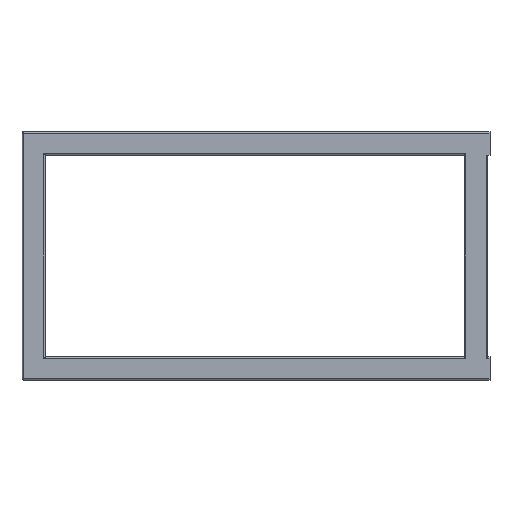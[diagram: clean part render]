
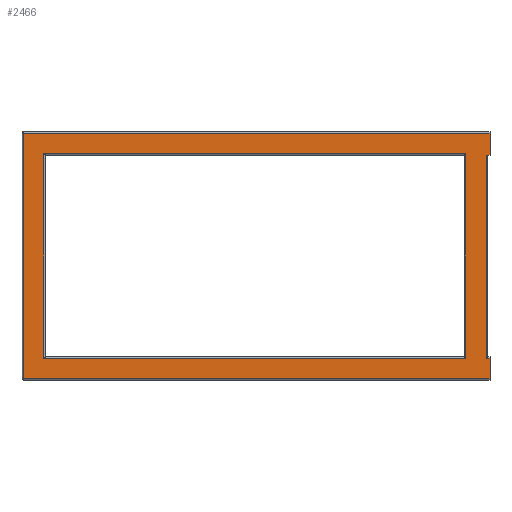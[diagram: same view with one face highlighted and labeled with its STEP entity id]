
A CAD part, left-side view. The second image highlights one B-rep face of the part: STEP entity #2466.
In plain terms, the highlighted planar face has unit normal (-1, 0, 0).
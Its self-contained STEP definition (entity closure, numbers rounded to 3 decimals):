
#87=FACE_BOUND('',#342,.T.);
#96=PLANE('',#2675);
#190=FACE_OUTER_BOUND('',#341,.T.);
#341=EDGE_LOOP('',(#1822,#1823,#1824,#1825,#1826,#1827,#1828,#1829));
#342=EDGE_LOOP('',(#1830,#1831,#1832,#1833));
#554=LINE('',#3716,#829);
#582=LINE('',#3790,#857);
#591=LINE('',#3826,#866);
#592=LINE('',#3829,#867);
#593=LINE('',#3830,#868);
#594=LINE('',#3832,#869);
#595=LINE('',#3834,#870);
#596=LINE('',#3835,#871);
#597=LINE('',#3838,#872);
#598=LINE('',#3840,#873);
#599=LINE('',#3842,#874);
#600=LINE('',#3843,#875);
#829=VECTOR('',#2946,10.);
#857=VECTOR('',#2998,10.);
#866=VECTOR('',#3039,10.);
#867=VECTOR('',#3042,10.);
#868=VECTOR('',#3043,10.);
#869=VECTOR('',#3044,10.);
#870=VECTOR('',#3045,10.);
#871=VECTOR('',#3046,10.);
#872=VECTOR('',#3047,10.);
#873=VECTOR('',#3048,10.);
#874=VECTOR('',#3049,10.);
#875=VECTOR('',#3050,10.);
#1162=VERTEX_POINT('',#3713);
#1163=VERTEX_POINT('',#3715);
#1196=VERTEX_POINT('',#3787);
#1197=VERTEX_POINT('',#3789);
#1208=VERTEX_POINT('',#3824);
#1209=VERTEX_POINT('',#3828);
#1210=VERTEX_POINT('',#3831);
#1211=VERTEX_POINT('',#3833);
#1212=VERTEX_POINT('',#3836);
#1213=VERTEX_POINT('',#3837);
#1214=VERTEX_POINT('',#3839);
#1215=VERTEX_POINT('',#3841);
#1386=EDGE_CURVE('',#1162,#1163,#554,.T.);
#1423=EDGE_CURVE('',#1196,#1197,#582,.T.);
#1442=EDGE_CURVE('',#1208,#1196,#591,.T.);
#1443=EDGE_CURVE('',#1209,#1208,#592,.T.);
#1444=EDGE_CURVE('',#1209,#1163,#593,.T.);
#1445=EDGE_CURVE('',#1210,#1162,#594,.T.);
#1446=EDGE_CURVE('',#1211,#1210,#595,.T.);
#1447=EDGE_CURVE('',#1197,#1211,#596,.T.);
#1448=EDGE_CURVE('',#1212,#1213,#597,.T.);
#1449=EDGE_CURVE('',#1214,#1212,#598,.T.);
#1450=EDGE_CURVE('',#1215,#1214,#599,.T.);
#1451=EDGE_CURVE('',#1213,#1215,#600,.T.);
#1822=ORIENTED_EDGE('',*,*,#1442,.F.);
#1823=ORIENTED_EDGE('',*,*,#1443,.F.);
#1824=ORIENTED_EDGE('',*,*,#1444,.T.);
#1825=ORIENTED_EDGE('',*,*,#1386,.F.);
#1826=ORIENTED_EDGE('',*,*,#1445,.F.);
#1827=ORIENTED_EDGE('',*,*,#1446,.F.);
#1828=ORIENTED_EDGE('',*,*,#1447,.F.);
#1829=ORIENTED_EDGE('',*,*,#1423,.F.);
#1830=ORIENTED_EDGE('',*,*,#1448,.F.);
#1831=ORIENTED_EDGE('',*,*,#1449,.F.);
#1832=ORIENTED_EDGE('',*,*,#1450,.F.);
#1833=ORIENTED_EDGE('',*,*,#1451,.F.);
#2466=ADVANCED_FACE('',(#190,#87),#96,.T.);
#2675=AXIS2_PLACEMENT_3D('',#3827,#3040,#3041);
#2946=DIRECTION('',(0.,0.,-1.));
#2998=DIRECTION('',(0.,0.,-1.));
#3039=DIRECTION('',(0.,-1.,0.));
#3040=DIRECTION('center_axis',(-1.,0.,0.));
#3041=DIRECTION('ref_axis',(0.,0.,1.));
#3042=DIRECTION('',(0.,0.,-1.));
#3043=DIRECTION('',(0.,-1.,0.));
#3044=DIRECTION('',(0.,-1.,0.));
#3045=DIRECTION('',(0.,0.,1.));
#3046=DIRECTION('',(0.,1.,0.));
#3047=DIRECTION('',(0.,0.,1.));
#3048=DIRECTION('',(0.,-1.,0.));
#3049=DIRECTION('',(0.,0.,-1.));
#3050=DIRECTION('',(0.,1.,0.));
#3713=CARTESIAN_POINT('',(-175.,-3.,158.));
#3715=CARTESIAN_POINT('',(-175.,-3.,130.));
#3716=CARTESIAN_POINT('',(-175.,-3.,160.));
#3787=CARTESIAN_POINT('',(-175.,-3.,-132.));
#3789=CARTESIAN_POINT('',(-175.,-3.,-158.));
#3790=CARTESIAN_POINT('',(-175.,-3.,-160.));
#3824=CARTESIAN_POINT('',(-175.,2.,-132.));
#3826=CARTESIAN_POINT('',(-175.,0.,-132.));
#3827=CARTESIAN_POINT('Origin',(-175.,0.,-160.));
#3828=CARTESIAN_POINT('',(-175.,2.,130.));
#3829=CARTESIAN_POINT('',(-175.,2.,-105.306));
#3830=CARTESIAN_POINT('',(-175.,0.,130.));
#3831=CARTESIAN_POINT('',(-175.,598.,158.));
#3832=CARTESIAN_POINT('',(-175.,0.,158.));
#3833=CARTESIAN_POINT('',(-175.,598.,-158.));
#3834=CARTESIAN_POINT('',(-175.,598.,-105.306));
#3835=CARTESIAN_POINT('',(-175.,0.,-158.));
#3836=CARTESIAN_POINT('',(-175.,28.,-132.));
#3837=CARTESIAN_POINT('',(-175.,28.,132.));
#3838=CARTESIAN_POINT('',(-175.,28.,-105.306));
#3839=CARTESIAN_POINT('',(-175.,572.,-132.));
#3840=CARTESIAN_POINT('',(-175.,15.,-132.));
#3841=CARTESIAN_POINT('',(-175.,572.,132.));
#3842=CARTESIAN_POINT('',(-175.,572.,-105.306));
#3843=CARTESIAN_POINT('',(-175.,15.,132.));
